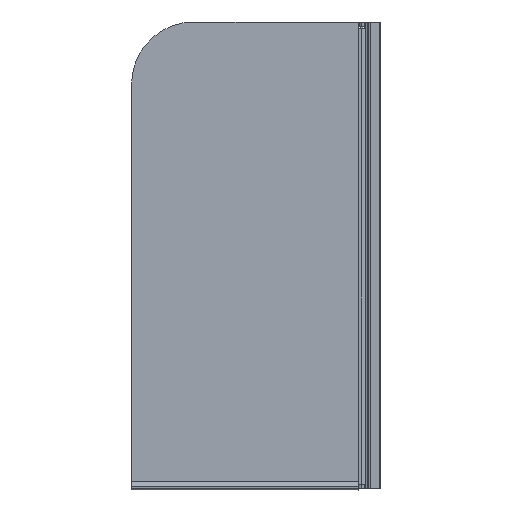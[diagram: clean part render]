
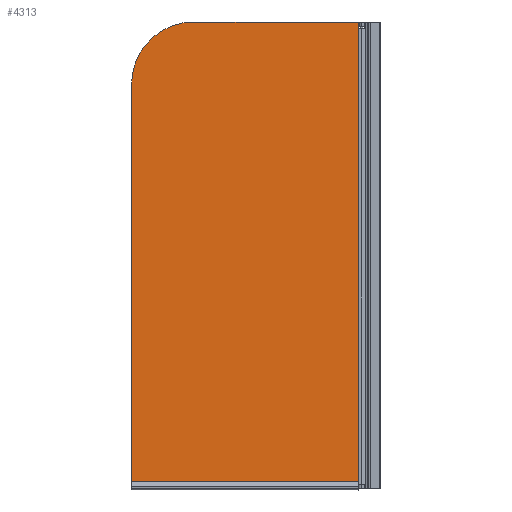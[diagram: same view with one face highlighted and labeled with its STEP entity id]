
A CAD part, left-side view. The second image highlights one B-rep face of the part: STEP entity #4313.
In plain terms, the highlighted planar face has unit normal (-1, 0, 0).
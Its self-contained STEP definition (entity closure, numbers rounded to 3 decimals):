
#266=CIRCLE($,#4675,200.);
#464=FACE_OUTER_BOUND($,#684,.T.);
#684=EDGE_LOOP($,(#3757,#3758,#3759,#3760,#3761,#3762));
#913=LINE($,#6584,#1350);
#962=LINE($,#6691,#1399);
#966=LINE($,#6698,#1403);
#1119=LINE($,#7109,#1556);
#1121=LINE($,#7115,#1558);
#1350=VECTOR($,#5252,730.);
#1399=VECTOR($,#5359,1456.087);
#1403=VECTOR($,#5367,1277.087);
#1556=VECTOR($,#5828,21.);
#1558=VECTOR($,#5836,530.);
#1820=VERTEX_POINT($,#6582);
#1821=VERTEX_POINT($,#6583);
#1850=VERTEX_POINT($,#6689);
#1851=VERTEX_POINT($,#6697);
#1955=VERTEX_POINT($,#7107);
#1956=VERTEX_POINT($,#7111);
#2289=EDGE_CURVE($,#1820,#1821,#913,.T.);
#2344=EDGE_CURVE($,#1820,#1850,#962,.T.);
#2348=EDGE_CURVE($,#1821,#1851,#966,.T.);
#2555=EDGE_CURVE($,#1850,#1955,#1119,.T.);
#2556=EDGE_CURVE($,#1956,#1851,#266,.T.);
#2558=EDGE_CURVE($,#1955,#1956,#1121,.T.);
#3757=ORIENTED_EDGE($,*,*,#2289,.F.);
#3758=ORIENTED_EDGE($,*,*,#2344,.T.);
#3759=ORIENTED_EDGE($,*,*,#2555,.T.);
#3760=ORIENTED_EDGE($,*,*,#2558,.T.);
#3761=ORIENTED_EDGE($,*,*,#2556,.T.);
#3762=ORIENTED_EDGE($,*,*,#2348,.F.);
#3900=PLANE($,#4677);
#4313=ADVANCED_FACE($,(#464),#3900,.F.);
#4675=AXIS2_PLACEMENT_3D($,#7112,#5831,#5832);
#4677=AXIS2_PLACEMENT_3D($,#7116,#5837,#5838);
#5252=DIRECTION($,(0.,1.,0.));
#5359=DIRECTION($,(0.,0.,1.));
#5367=DIRECTION($,(0.,0.,1.));
#5828=DIRECTION($,(0.,0.,1.));
#5831=DIRECTION('center_axis',(-1.,0.,0.));
#5832=DIRECTION('ref_axis',(0.,0.707,0.707));
#5836=DIRECTION($,(0.,1.,0.));
#5837=DIRECTION('center_axis',(1.,0.,0.));
#5838=DIRECTION('ref_axis',(0.,1.,0.));
#6582=CARTESIAN_POINT('',(1225.783,-84.044,47.857));
#6583=CARTESIAN_POINT('',(1225.783,645.956,47.857));
#6584=CARTESIAN_POINT($,(1225.783,645.956,47.857));
#6689=CARTESIAN_POINT('',(1225.783,-84.044,1503.944));
#6691=CARTESIAN_POINT($,(1225.783,-84.044,37.944));
#6697=CARTESIAN_POINT('',(1225.783,645.956,1324.944));
#6698=CARTESIAN_POINT($,(1225.783,645.956,37.944));
#7107=CARTESIAN_POINT('',(1225.783,-84.044,1524.944));
#7109=CARTESIAN_POINT($,(1225.783,-84.044,37.944));
#7111=CARTESIAN_POINT('',(1225.783,445.956,1524.944));
#7112=CARTESIAN_POINT('Origin',(1225.783,445.956,1324.944));
#7115=CARTESIAN_POINT($,(1225.783,-84.044,1524.944));
#7116=CARTESIAN_POINT('Origin',(1225.783,-84.044,37.944));
